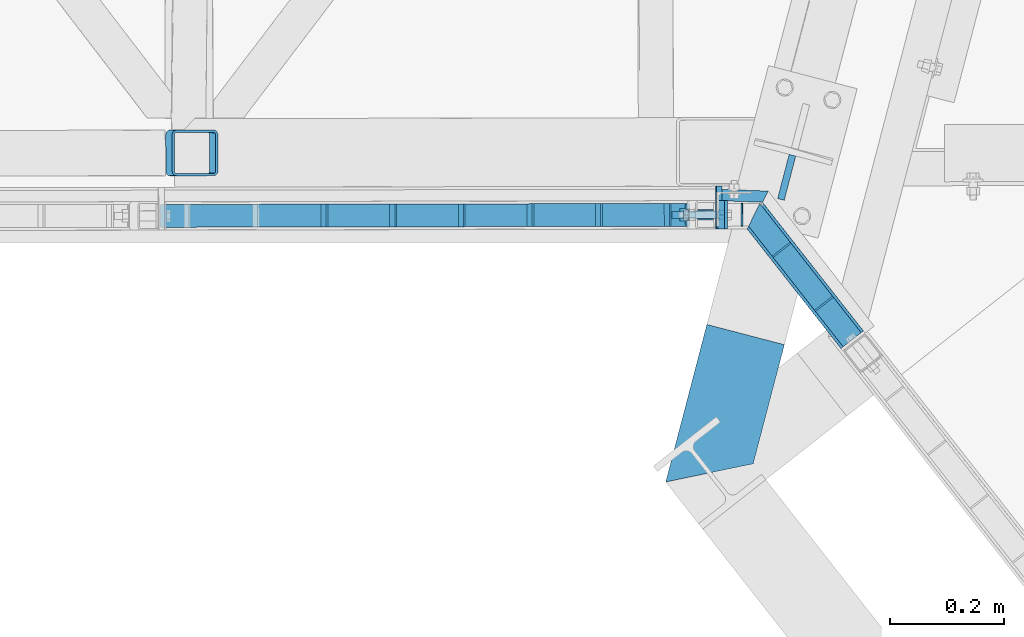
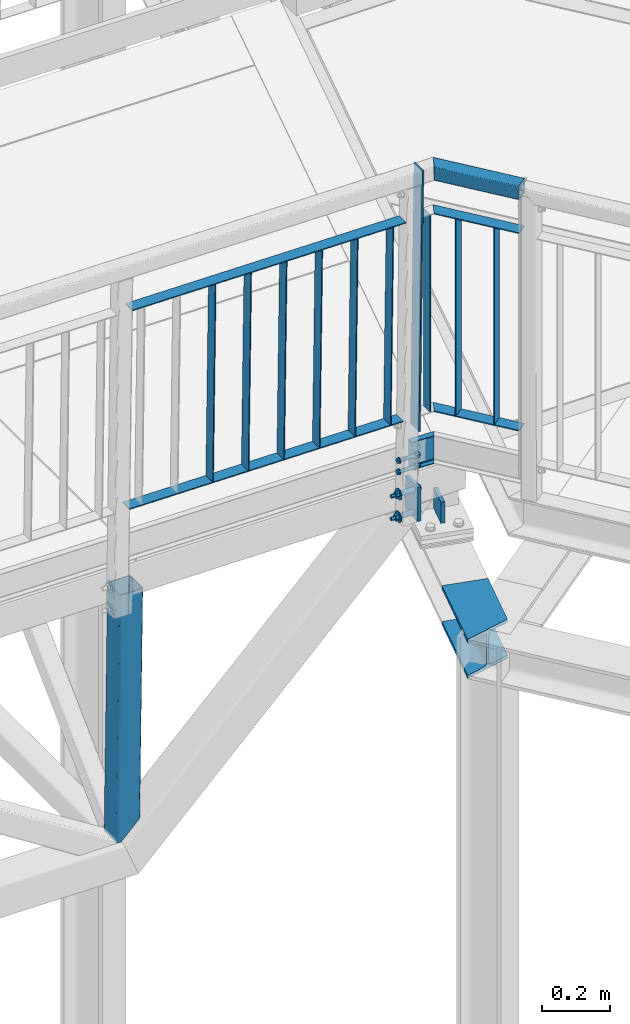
# One storey, part 119 of 169: 20 discrete accessories, 2 mechanical fasteners, 5 elements without a shape of their own.
"""IFC2X3 building model written with IfcOpenShell, lengths in millimetres."""

from ifc_helpers import new_model, si_unit, frame, frame_2d, origin_with_axes, origin_2d_with_axis, place, context, subcontext, project, spatial, polyline, circle_curve, parameter, trimmed, segment, composite_curve, rectangle, hollow_rectangle, circle, i_section, u_section, outline, extrude, boolean, clip, halfspace, source, transform, mapped, material, type_object, element, aggregate, save


model = new_model("IFC2X3")

# Units and contexts
model_context = context("Model", 3, precision=1e-05, world=origin_with_axes())
body_context = subcontext(model_context, "Body", "Model", "MODEL_VIEW")
ifc_project = project(units=[si_unit("LENGTHUNIT", "METRE", prefix="MILLI"), si_unit("AREAUNIT", "SQUARE_METRE"), si_unit("VOLUMEUNIT", "CUBIC_METRE"), si_unit("MASSUNIT", "GRAM", prefix="KILO"), si_unit("TIMEUNIT", "SECOND"), si_unit("PLANEANGLEUNIT", "RADIAN"), si_unit("SOLIDANGLEUNIT", "STERADIAN"), si_unit("THERMODYNAMICTEMPERATUREUNIT", "DEGREE_CELSIUS"), si_unit("LUMINOUSINTENSITYUNIT", "LUMEN")], contexts=[model_context])

# Site, building, storey
site_placement = place(None, origin_with_axes())
site = spatial("IfcSite", under=ifc_project, at=site_placement, Name="Undefined", CompositionType="ELEMENT")
building_placement = place(site_placement, origin_with_axes())
building = spatial("IfcBuilding", under=site, at=building_placement, Name="Undefined", CompositionType="ELEMENT")
storey_placement = place(building_placement, origin_with_axes())
storey = spatial("IfcBuildingStorey", under=building, at=storey_placement, Name="Undefined", CompositionType="ELEMENT", Elevation=0.0)

# Assembly, discrete accessory
assembly_1_placement = place(storey_placement, origin_with_axes())
assembly_1 = element("IfcElementAssembly", 1, at=assembly_1_placement, inside=storey, Name="Steel Assembly", AssemblyPlace="NOTDEFINED", PredefinedType="RIGID_FRAME")
ifc_material_1 = material(Name="STEEL/S235")
discrete_accessory_type_1 = type_object("IfcDiscreteAccessoryType", Name="BLACHA")
discrete_accessory_1_placement = place(assembly_1_placement, frame((18307.4654763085, 54.1547136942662, 13980.5306723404), z_axis=(-0.999917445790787, -0.00186469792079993, 0.0127131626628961), x_axis=(0.00186484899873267, -0.999998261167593, 4.28757666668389e-08)))
discrete_accessory_1 = element("IfcDiscreteAccessory", 2, at=discrete_accessory_1_placement, type_object=discrete_accessory_type_1, material=ifc_material_1, Name="BLACHA", ObjectType="BL5*50", context=body_context, shape_type="SweptSolid", body=[
    extrude(outline(polyline([(0.0, 0.0), (50.0000000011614, 3.27418092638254e-11), (50.0000000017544, 926.000000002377), (3.10365066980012e-08, 926.000000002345), (0.0, 0.0)])), frame((6.80888809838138e-19, -2.87858853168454e-21, -2.49999999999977), z_axis=(0.0, 0.0, 1.0), x_axis=(1.0, 0.0, 0.0)), (0.0, 0.0, 1.0), 5.0),
])

assembly_2_placement = place(storey_placement, origin_with_axes())
assembly_2 = element("IfcElementAssembly", 3, at=assembly_2_placement, inside=storey, Name="Steel Assembly", AssemblyPlace="NOTDEFINED", PredefinedType="RIGID_FRAME")
discrete_accessory_2_placement = place(assembly_2_placement, frame((18306.6259454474, 79.1531882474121, 13721.519819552), z_axis=(-0.999917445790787, -0.00186469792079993, 0.0127131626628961), x_axis=(0.00186484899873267, -0.999998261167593, 4.28757666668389e-08)))
discrete_accessory_2 = element("IfcDiscreteAccessory", 4, at=discrete_accessory_2_placement, type_object=discrete_accessory_type_1, material=ifc_material_1, Name="BLACHA", ObjectType="BL10*120", context=body_context, shape_type="SweptSolid", body=[
    extrude(outline(polyline([(75.0000002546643, -60.0000000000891), (-5.35749222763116e-11, -59.9999999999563), (5.3567816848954e-11, 59.9999999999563), (75.0000002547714, 59.9999999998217), (75.0000002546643, -60.0000000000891)])), frame((-1.81898926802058e-12, -1.18000176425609e-16, -5.00000000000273), z_axis=(0.0, 0.0, 1.0), x_axis=(1.0, 0.0, 0.0)), (0.0, 0.0, 1.0), 10.0),
])

assembly_3_placement = place(storey_placement, origin_with_axes())
assembly_3 = element("IfcElementAssembly", 5, at=assembly_3_placement, inside=storey, Name="Steel Assembly", AssemblyPlace="NOTDEFINED", PredefinedType="RIGID_FRAME")
ifc_material_2 = material(Name="STEEL/S355")
discrete_accessory_type_2 = type_object("IfcDiscreteAccessoryType", Name="BEAM")
discrete_accessory_3_placement = place(assembly_3_placement, frame((18353.7257667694, -180.166900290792, 13470.4171322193), z_axis=(-2.54700353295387e-10, 0.0, -1.0), x_axis=(-0.252628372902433, -0.967563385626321, 0.0)))
discrete_accessory_3 = element("IfcDiscreteAccessory", 6, at=discrete_accessory_3_placement, type_object=discrete_accessory_type_2, material=ifc_material_2, Name="BEAM", ObjectType="HEB140", context=body_context, shape_type="Clipping", body=[
    clip(extrude(i_section(OverallWidth=140.0, OverallDepth=140.0, WebThickness=7.0, FlangeThickness=12.0, FilletRadius=12.0, at=origin_2d_with_axis()), frame((319.618861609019, 3.62910760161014e-12, 0.0), z_axis=(-1.0, -3.46944695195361e-18, -1.38777878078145e-17), x_axis=(1.73472347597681e-18, -1.0, 0.0)), (0.0, 0.0, 1.0), 319.62), halfspace(frame((215.291188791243, -70.000000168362, -1.61171556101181e-07), z_axis=(0.895912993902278, -0.444229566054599, -7.89350043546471e-10), x_axis=(0.0, 0.0, 1.0)), False)),
])
aggregate(assembly_3, [discrete_accessory_3])

# Discrete accessory
discrete_accessory_4_placement = place(assembly_2_placement, frame((18425.4951076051, 94.7088062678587, 13546.2064043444), z_axis=(0.967563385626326, -0.252628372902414, 0.0), x_axis=(0.0, 0.0, 1.0)))
discrete_accessory_4 = element("IfcDiscreteAccessory", 7, at=discrete_accessory_4_placement, type_object=discrete_accessory_type_2, material=ifc_material_1, Name="BEAM", ObjectType="BL12*80", context=body_context, shape_type="Clipping", body=[
    clip(clip(extrude(outline(polyline([(38.9999999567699, 39.9999999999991), (113.926272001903, 39.9999999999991), (113.667476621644, -39.9999999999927), (38.9999999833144, -39.9999999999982), (38.9999999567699, 39.9999999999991)])), frame((-1.81898942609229e-12, -1.81898940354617e-12, -5.99999999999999), z_axis=(0.0, 0.0, 1.0), x_axis=(1.0, 0.0, 0.0)), (0.0, 0.0, 1.0), 12.0), halfspace(frame((38.9999996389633, 1000.00000000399, 4.52928361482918e-09), z_axis=(1.0, 0.0, 0.0), x_axis=(-2.54700353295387e-10, 0.0, -1.0)), True)), halfspace(frame((117.04149814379, 1000.18884846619, -0.737696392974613), z_axis=(-0.9999191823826, 0.00323463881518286, -0.0122949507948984), x_axis=(-0.0122948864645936, 3.9772751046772e-05, 0.999924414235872)), True)),
])

discrete_accessory_5_placement = place(assembly_2_placement, frame((17379.1856832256, 137.423714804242, 12733.2291347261), z_axis=(-0.999917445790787, -0.00186469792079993, 0.0127131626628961), x_axis=(0.012713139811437, 2.3750999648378e-05, 0.999919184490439)))
discrete_accessory_5 = element("IfcDiscreteAccessory", 8, at=discrete_accessory_5_placement, type_object=discrete_accessory_type_2, material=ifc_material_2, Name="BEAM", ObjectType="K80/4", context=body_context, shape_type="CSG", body=[
    boolean("DIFFERENCE", boolean("DIFFERENCE", boolean("DIFFERENCE", boolean("DIFFERENCE", extrude(hollow_rectangle(XDim=80.0, YDim=80.0, WallThickness=4.0, InnerFilletRadius=4.0, OuterFilletRadius=8.0, at=origin_2d_with_axis()), frame((940.000112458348, 4.54747487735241e-13, 0.0), z_axis=(-1.0, -3.46944695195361e-18, -1.38777878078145e-17), x_axis=(1.73472347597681e-18, -1.0, 0.0)), (0.0, 0.0, 1.0), 939.93), extrude(rectangle(XDim=122.0, YDim=122.0, at=origin_2d_with_axis()), frame((82.241183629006, 7.13583112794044e-08, -80.9376947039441), z_axis=(-0.712429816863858, -6.23252919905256e-10, 0.701743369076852), x_axis=(-0.701743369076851, -2.75935332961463e-10, -0.712429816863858)), (0.0, 0.0, 1.0), 230.68)), extrude(rectangle(XDim=122.0, YDim=122.0, at=origin_2d_with_axis()), frame((0.000109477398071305, -4.09399143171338e-06, -139.999999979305), z_axis=(0.0, 0.0, 1.0), x_axis=(-1.0, -3.46944695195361e-18, -1.38777878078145e-17)), (0.0, 0.0, 1.0), 280.0)), halfspace(frame((940.000112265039, -6.72889655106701e-09, 999.999999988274), z_axis=(-1.0, -3.46944695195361e-18, -1.38777878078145e-17), x_axis=(1.73472347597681e-18, -1.0, 0.0)), True)), halfspace(frame((7.55753717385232e-08, -8.42021563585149e-10, 0.0698710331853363), z_axis=(-0.701743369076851, -2.75935332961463e-10, -0.712429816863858), x_axis=(1.73472347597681e-18, -1.0, 0.0)), False)),
])

aggregate(assembly_2, [discrete_accessory_2, discrete_accessory_4, discrete_accessory_5])

discrete_accessory_type_3 = type_object("IfcDiscreteAccessoryType", Name="PORĘCZ")
discrete_accessory_6_placement = place(assembly_1_placement, frame((18347.1831313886, 29.2329910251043, 14986.9308399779), z_axis=(0.999998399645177, 0.00178905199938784, 1.65736745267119e-07), x_axis=(-2.54700353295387e-10, 0.0, -1.0)))
discrete_accessory_6 = element("IfcDiscreteAccessory", 9, at=discrete_accessory_6_placement, type_object=discrete_accessory_type_3, material=ifc_material_1, Name="PORĘCZ", ObjectType="BL40*3", context=body_context, shape_type="Clipping", body=[
    clip(clip(extrude(outline(polyline([(953.5, -20.0000000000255), (251.999988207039, -19.9999999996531), (251.999984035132, 20.0000000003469), (953.5, 20.0000000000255), (953.5, -20.0000000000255)])), frame((1.81898940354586e-12, -1.77635442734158e-15, -1.50000000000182), z_axis=(0.0, 0.0, 1.0), x_axis=(1.0, 0.0, 0.0)), (0.0, 0.0, 1.0), 3.0), halfspace(frame((251.999881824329, 1000.00000015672, -2.78305378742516e-09), z_axis=(1.0, 0.0, 0.0), x_axis=(-2.54700353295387e-10, 0.0, -1.0)), True)), halfspace(frame((953.499887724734, 999.999999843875, -4.07817424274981e-09), z_axis=(-1.0, -3.46944695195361e-18, -1.38777878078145e-17), x_axis=(0.0, 0.0, 1.0)), True)),
])

discrete_accessory_7_placement = place(assembly_1_placement, frame((18490.7153678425, -126.340848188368, 14986.9308724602), z_axis=(0.617242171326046, -0.786773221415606, 1.36000016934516e-07), x_axis=(-2.54700353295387e-10, 0.0, -1.0)))
discrete_accessory_7 = element("IfcDiscreteAccessory", 10, at=discrete_accessory_7_placement, type_object=discrete_accessory_type_3, material=ifc_material_1, Name="PORĘCZ", ObjectType="BL40*3", context=body_context, shape_type="Clipping", body=[
    clip(clip(extrude(outline(polyline([(953.5, -20.0000000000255), (251.999988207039, -19.9999999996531), (251.999984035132, 20.0000000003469), (953.5, 20.0000000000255), (953.5, -20.0000000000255)])), frame((1.81898940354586e-12, -1.77635442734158e-15, -1.50000000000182), z_axis=(0.0, 0.0, 1.0), x_axis=(1.0, 0.0, 0.0)), (0.0, 0.0, 1.0), 3.0), halfspace(frame((251.999881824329, 1000.00000015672, -2.78305378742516e-09), z_axis=(1.0, 0.0, 0.0), x_axis=(-2.54700353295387e-10, 0.0, -1.0)), True)), halfspace(frame((953.499887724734, 999.999999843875, -4.07817424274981e-09), z_axis=(-1.0, -3.46944695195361e-18, -1.38777878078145e-17), x_axis=(0.0, 0.0, 1.0)), True)),
])

discrete_accessory_8_placement = place(assembly_1_placement, frame((18416.6463072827, -31.9280616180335, 14986.9308561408), z_axis=(0.617242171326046, -0.786773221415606, 1.36000016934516e-07), x_axis=(-2.54700353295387e-10, 0.0, -1.0)))
discrete_accessory_8 = element("IfcDiscreteAccessory", 11, at=discrete_accessory_8_placement, type_object=discrete_accessory_type_3, material=ifc_material_1, Name="PORĘCZ", ObjectType="BL40*3", context=body_context, shape_type="Clipping", body=[
    clip(clip(extrude(outline(polyline([(953.5, -20.0000000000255), (251.999988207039, -19.9999999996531), (251.999984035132, 20.0000000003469), (953.5, 20.0000000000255), (953.5, -20.0000000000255)])), frame((1.81898940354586e-12, -1.77635442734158e-15, -1.50000000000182), z_axis=(0.0, 0.0, 1.0), x_axis=(1.0, 0.0, 0.0)), (0.0, 0.0, 1.0), 3.0), halfspace(frame((251.999881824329, 1000.00000015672, -2.78305378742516e-09), z_axis=(1.0, 0.0, 0.0), x_axis=(-2.54700353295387e-10, 0.0, -1.0)), True)), halfspace(frame((953.499887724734, 999.999999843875, -4.07817424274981e-09), z_axis=(-1.0, -3.46944695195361e-18, -1.38777878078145e-17), x_axis=(0.0, 0.0, 1.0)), True)),
])

discrete_accessory_9_placement = place(assembly_1_placement, frame((18223.7301095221, 28.9985625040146, 14882.6687160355), z_axis=(-0.0018648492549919, 0.999998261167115, -4.2996762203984e-08), x_axis=(-0.012713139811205, -2.37511238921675e-05, -0.999919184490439)))
discrete_accessory_9 = element("IfcDiscreteAccessory", 12, at=discrete_accessory_9_placement, type_object=discrete_accessory_type_3, material=ifc_material_1, Name="PORĘCZ", ObjectType="BL40*3", context=body_context, shape_type="Clipping", body=[
    clip(clip(extrude(rectangle(XDim=3.0, YDim=40.0, at=origin_2d_with_axis()), frame((848.500000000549, 1.47191286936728e-15, -8.89750592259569e-16), z_axis=(-1.0, -3.46944695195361e-18, -1.38777878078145e-17), x_axis=(1.73472347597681e-18, -1.0, 0.0)), (0.0, 0.0, 1.0), 702.0), halfspace(frame((848.499999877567, 4.522007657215e-09, 1000.00000000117), z_axis=(-1.0, -3.46944695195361e-18, -1.38777878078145e-17), x_axis=(1.73472347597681e-18, -1.0, 0.0)), True)), halfspace(frame((146.499999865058, 4.97311702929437e-09, 1000.00000000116), z_axis=(1.0, 0.0, 0.0), x_axis=(0.0, 1.0, 0.0)), True)),
])

discrete_accessory_10_placement = place(assembly_1_placement, frame((18103.7400160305, 28.7747987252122, 14884.1942954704), z_axis=(-0.0018648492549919, 0.999998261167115, -4.2996762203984e-08), x_axis=(-0.012713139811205, -2.37511238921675e-05, -0.999919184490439)))
discrete_accessory_10 = element("IfcDiscreteAccessory", 13, at=discrete_accessory_10_placement, type_object=discrete_accessory_type_3, material=ifc_material_1, Name="PORĘCZ", ObjectType="BL40*3", context=body_context, shape_type="Clipping", body=[
    clip(clip(extrude(rectangle(XDim=3.0, YDim=40.0, at=origin_2d_with_axis()), frame((848.500000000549, 1.47191286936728e-15, -8.89750592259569e-16), z_axis=(-1.0, -3.46944695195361e-18, -1.38777878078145e-17), x_axis=(1.73472347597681e-18, -1.0, 0.0)), (0.0, 0.0, 1.0), 702.0), halfspace(frame((848.499999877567, 4.522007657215e-09, 1000.00000000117), z_axis=(-1.0, -3.46944695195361e-18, -1.38777878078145e-17), x_axis=(1.73472347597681e-18, -1.0, 0.0)), True)), halfspace(frame((146.499999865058, 4.97311702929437e-09, 1000.00000000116), z_axis=(1.0, 0.0, 0.0), x_axis=(0.0, 1.0, 0.0)), True)),
])

discrete_accessory_11_placement = place(assembly_1_placement, frame((18312.428855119, 29.1639662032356, 14736.5292622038), z_axis=(-0.012713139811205, -2.37511238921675e-05, -0.999919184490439), x_axis=(-0.999917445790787, -0.00186469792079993, 0.0127131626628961)))
discrete_accessory_11 = element("IfcDiscreteAccessory", 14, at=discrete_accessory_11_placement, type_object=discrete_accessory_type_3, material=ifc_material_1, Name="PORĘCZ", ObjectType="BL40*3", context=body_context, shape_type="CSG", body=[
    boolean("DIFFERENCE", boolean("DIFFERENCE", boolean("DIFFERENCE", extrude(outline(polyline([(972.599252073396, -19.9999999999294), (47.8052361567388, -19.9999999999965), (47.8052361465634, 20.0000000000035), (972.599252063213, 20.0000000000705), (972.599252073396, -19.9999999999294)])), frame((1.81898940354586e-12, -1.77635442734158e-15, -1.50000000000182), z_axis=(0.0, 0.0, 1.0), x_axis=(1.0, 0.0, 0.0)), (0.0, 0.0, 1.0), 3.0), extrude(rectangle(XDim=51.0, YDim=51.0, at=origin_2d_with_axis()), frame((-5.94487782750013e-08, -4.65977194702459e-09, -139.999999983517), z_axis=(0.0, 0.0, 1.0), x_axis=(1.0, 0.0, 0.0)), (0.0, 0.0, 1.0), 280.0)), extrude(rectangle(XDim=51.0, YDim=51.0, at=origin_2d_with_axis()), frame((998.099252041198, 3.51939400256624e-08, -140.00000001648), z_axis=(0.0, 0.0, 1.0), x_axis=(1.0, 0.0, 0.0)), (0.0, 0.0, 1.0), 280.0)), halfspace(frame((47.8052358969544, 1000.00000001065, -5.17502485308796e-09), z_axis=(1.0, 0.0, 0.0), x_axis=(-2.54700353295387e-10, 0.0, -1.0)), True)),
])

discrete_accessory_12_placement = place(assembly_1_placement, frame((17983.7499225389, 28.5510349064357, 14885.7198748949), z_axis=(-0.0018648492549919, 0.999998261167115, -4.2996762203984e-08), x_axis=(-0.012713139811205, -2.37511238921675e-05, -0.999919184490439)))
discrete_accessory_12 = element("IfcDiscreteAccessory", 15, at=discrete_accessory_12_placement, type_object=discrete_accessory_type_3, material=ifc_material_1, Name="PORĘCZ", ObjectType="BL40*3", context=body_context, shape_type="Clipping", body=[
    clip(clip(extrude(rectangle(XDim=3.0, YDim=40.0, at=origin_2d_with_axis()), frame((848.500000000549, 1.47191286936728e-15, -8.89750592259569e-16), z_axis=(-1.0, -3.46944695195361e-18, -1.38777878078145e-17), x_axis=(1.73472347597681e-18, -1.0, 0.0)), (0.0, 0.0, 1.0), 702.0), halfspace(frame((848.499999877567, 4.522007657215e-09, 1000.00000000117), z_axis=(-1.0, -3.46944695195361e-18, -1.38777878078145e-17), x_axis=(1.73472347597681e-18, -1.0, 0.0)), True)), halfspace(frame((146.499999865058, 4.97311702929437e-09, 1000.00000000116), z_axis=(1.0, 0.0, 0.0), x_axis=(0.0, 1.0, 0.0)), True)),
])

discrete_accessory_13_placement = place(assembly_1_placement, frame((17863.7598290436, 28.3272711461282, 14887.2454543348), z_axis=(-0.0018648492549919, 0.999998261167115, -4.2996762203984e-08), x_axis=(-0.012713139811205, -2.37511238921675e-05, -0.999919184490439)))
discrete_accessory_13 = element("IfcDiscreteAccessory", 16, at=discrete_accessory_13_placement, type_object=discrete_accessory_type_3, material=ifc_material_1, Name="PORĘCZ", ObjectType="BL40*3", context=body_context, shape_type="Clipping", body=[
    clip(clip(extrude(rectangle(XDim=3.0, YDim=40.0, at=origin_2d_with_axis()), frame((848.500000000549, 1.47191286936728e-15, -8.89750592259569e-16), z_axis=(-1.0, -3.46944695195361e-18, -1.38777878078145e-17), x_axis=(1.73472347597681e-18, -1.0, 0.0)), (0.0, 0.0, 1.0), 702.0), halfspace(frame((848.499999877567, 4.522007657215e-09, 1000.00000000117), z_axis=(-1.0, -3.46944695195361e-18, -1.38777878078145e-17), x_axis=(1.73472347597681e-18, -1.0, 0.0)), True)), halfspace(frame((146.499999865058, 4.97311702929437e-09, 1000.00000000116), z_axis=(1.0, 0.0, 0.0), x_axis=(0.0, 1.0, 0.0)), True)),
])

discrete_accessory_14_placement = place(assembly_1_placement, frame((17743.7697355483, 28.1035073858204, 14888.7710337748), z_axis=(-0.0018648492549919, 0.999998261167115, -4.2996762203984e-08), x_axis=(-0.012713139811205, -2.37511238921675e-05, -0.999919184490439)))
discrete_accessory_14 = element("IfcDiscreteAccessory", 17, at=discrete_accessory_14_placement, type_object=discrete_accessory_type_3, material=ifc_material_1, Name="PORĘCZ", ObjectType="BL40*3", context=body_context, shape_type="Clipping", body=[
    clip(clip(extrude(rectangle(XDim=3.0, YDim=40.0, at=origin_2d_with_axis()), frame((848.500000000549, 1.47191286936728e-15, -8.89750592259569e-16), z_axis=(-1.0, -3.46944695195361e-18, -1.38777878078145e-17), x_axis=(1.73472347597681e-18, -1.0, 0.0)), (0.0, 0.0, 1.0), 702.0), halfspace(frame((848.499999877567, 4.522007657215e-09, 1000.00000000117), z_axis=(-1.0, -3.46944695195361e-18, -1.38777878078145e-17), x_axis=(1.73472347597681e-18, -1.0, 0.0)), True)), halfspace(frame((146.499999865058, 4.97311702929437e-09, 1000.00000000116), z_axis=(1.0, 0.0, 0.0), x_axis=(0.0, 1.0, 0.0)), True)),
])

discrete_accessory_15_placement = place(assembly_1_placement, frame((17623.779642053, 27.8797436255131, 14890.2966132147), z_axis=(-0.0018648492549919, 0.999998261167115, -4.2996762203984e-08), x_axis=(-0.012713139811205, -2.37511238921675e-05, -0.999919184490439)))
discrete_accessory_15 = element("IfcDiscreteAccessory", 18, at=discrete_accessory_15_placement, type_object=discrete_accessory_type_3, material=ifc_material_1, Name="PORĘCZ", ObjectType="BL40*3", context=body_context, shape_type="Clipping", body=[
    clip(clip(extrude(rectangle(XDim=3.0, YDim=40.0, at=origin_2d_with_axis()), frame((848.500000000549, 1.47191286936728e-15, -8.89750592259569e-16), z_axis=(-1.0, -3.46944695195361e-18, -1.38777878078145e-17), x_axis=(1.73472347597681e-18, -1.0, 0.0)), (0.0, 0.0, 1.0), 702.0), halfspace(frame((848.499999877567, 4.522007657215e-09, 1000.00000000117), z_axis=(-1.0, -3.46944695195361e-18, -1.38777878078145e-17), x_axis=(1.73472347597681e-18, -1.0, 0.0)), True)), halfspace(frame((146.499999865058, 4.97311702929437e-09, 1000.00000000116), z_axis=(1.0, 0.0, 0.0), x_axis=(0.0, 1.0, 0.0)), True)),
])

discrete_accessory_16_placement = place(assembly_1_placement, frame((18303.4660915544, 29.1472216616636, 14031.5862371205), z_axis=(-0.012713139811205, -2.37511238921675e-05, -0.999919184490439), x_axis=(-0.999917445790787, -0.00186469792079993, 0.0127131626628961)))
discrete_accessory_16 = element("IfcDiscreteAccessory", 19, at=discrete_accessory_16_placement, type_object=discrete_accessory_type_3, material=ifc_material_1, Name="PORĘCZ", ObjectType="BL40*3", context=body_context, shape_type="CSG", body=[
    boolean("DIFFERENCE", boolean("DIFFERENCE", boolean("DIFFERENCE", extrude(outline(polyline([(972.599252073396, -19.9999999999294), (47.8052361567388, -19.9999999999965), (47.8052361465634, 20.0000000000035), (972.599252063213, 20.0000000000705), (972.599252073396, -19.9999999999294)])), frame((1.81898940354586e-12, -1.77635442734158e-15, -1.50000000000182), z_axis=(0.0, 0.0, 1.0), x_axis=(1.0, 0.0, 0.0)), (0.0, 0.0, 1.0), 3.0), extrude(rectangle(XDim=51.0, YDim=51.0, at=origin_2d_with_axis()), frame((-5.94487782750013e-08, -4.65977194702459e-09, -139.999999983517), z_axis=(0.0, 0.0, 1.0), x_axis=(1.0, 0.0, 0.0)), (0.0, 0.0, 1.0), 280.0)), extrude(rectangle(XDim=51.0, YDim=51.0, at=origin_2d_with_axis()), frame((998.099252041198, 3.51939400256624e-08, -140.00000001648), z_axis=(0.0, 0.0, 1.0), x_axis=(1.0, 0.0, 0.0)), (0.0, 0.0, 1.0), 280.0)), halfspace(frame((47.8052358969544, 1000.00000001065, -5.17502485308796e-09), z_axis=(1.0, 0.0, 0.0), x_axis=(-2.54700353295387e-10, 0.0, -1.0)), True)),
])

discrete_accessory_17_placement = place(assembly_1_placement, frame((18539.9862736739, -189.144602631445, 14031.9308833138), z_axis=(-2.54700353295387e-10, 0.0, -1.0), x_axis=(-0.617242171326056, 0.786773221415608, 5.09999997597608e-08)))
discrete_accessory_17 = element("IfcDiscreteAccessory", 20, at=discrete_accessory_17_placement, type_object=discrete_accessory_type_3, material=ifc_material_1, Name="PORĘCZ", ObjectType="BL40*3", context=body_context, shape_type="Clipping", body=[
    clip(clip(extrude(outline(polyline([(267.857691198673, -19.9999999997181), (-3.27418092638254e-11, -20.0000000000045), (3.27418092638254e-11, 20.0000000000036), (287.361586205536, 20.0000000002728), (267.857691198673, -19.9999999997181)])), frame((1.81898940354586e-12, -1.77635442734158e-15, -1.50000000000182), z_axis=(0.0, 0.0, 1.0), x_axis=(1.0, 0.0, 0.0)), (0.0, 0.0, 1.0), 3.0), halfspace(frame((267.85769112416, -20.0000001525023, -3.93147274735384e-06), z_axis=(-0.898841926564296, 0.438272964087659, -4.45569222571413e-08), x_axis=(-2.54700353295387e-10, 0.0, -1.0)), True)), halfspace(frame((-8.25479219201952e-07, 1000.00000001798, 2.65572452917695e-09), z_axis=(1.0, 0.0, 0.0), x_axis=(-2.54700353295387e-10, 0.0, -1.0)), True)),
])

discrete_accessory_18_placement = place(assembly_1_placement, frame((18539.9862145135, -189.14452726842, 14736.4308892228), z_axis=(-2.54700353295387e-10, 0.0, -1.0), x_axis=(-0.617242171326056, 0.786773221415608, 5.09999997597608e-08)))
discrete_accessory_18 = element("IfcDiscreteAccessory", 21, at=discrete_accessory_18_placement, type_object=discrete_accessory_type_3, material=ifc_material_1, Name="PORĘCZ", ObjectType="BL40*3", context=body_context, shape_type="Clipping", body=[
    clip(extrude(outline(polyline([(267.857691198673, -19.9999999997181), (-3.27418092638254e-11, -20.0000000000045), (3.27418092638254e-11, 20.0000000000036), (287.361586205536, 20.0000000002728), (267.857691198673, -19.9999999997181)])), frame((1.81898940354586e-12, -1.77635442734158e-15, -1.50000000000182), z_axis=(0.0, 0.0, 1.0), x_axis=(1.0, 0.0, 0.0)), (0.0, 0.0, 1.0), 3.0), halfspace(frame((267.85769112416, -20.0000001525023, -3.93147274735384e-06), z_axis=(-0.898841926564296, 0.438272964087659, -4.45569222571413e-08), x_axis=(-2.54700353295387e-10, 0.0, -1.0)), True)),
])

discrete_accessory_19_placement = place(assembly_1_placement, frame((18539.9862023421, -189.144511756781, 14881.4308892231), z_axis=(0.786773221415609, 0.617242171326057, 0.0), x_axis=(-0.617242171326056, 0.786773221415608, 5.09999997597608e-08)))
discrete_accessory_19 = element("IfcDiscreteAccessory", 22, at=discrete_accessory_19_placement, type_object=discrete_accessory_type_3, material=ifc_material_1, Name="PORĘCZ", ObjectType="SHS50*3", context=body_context, shape_type="Clipping", body=[
    clip(extrude(hollow_rectangle(XDim=50.0, YDim=50.0, WallThickness=3.0, InnerFilletRadius=3.0, OuterFilletRadius=6.0, at=origin_2d_with_axis()), frame((329.588758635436, 0.0, 1.8125881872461e-12), z_axis=(-1.0, -3.46944695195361e-18, -1.38777878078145e-17), x_axis=(1.73472347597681e-18, -1.0, 0.0)), (0.0, 0.0, 1.0), 329.59), halfspace(frame((289.799573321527, 2.5347344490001e-06, 25.0000025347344), z_axis=(0.898841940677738, -4.45569184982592e-08, -0.43827293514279), x_axis=(0.0, 1.0, 0.0)), False)),
])

# Mechanical fastener
ifc_material_3 = material(Name="Undefined")
discrete_accessory_type_4 = type_object("IfcDiscreteAccessoryType", Name="Bolt assembly")
shared_shape_1 = source(origin_with_axes(), body_context, "Body", "SweptSolid", [
    extrude(circle(Radius=9.0, at=origin_2d_with_axis()), frame((0.0, -4.90000000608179, 0.0), z_axis=(0.0, 1.0, 0.0), x_axis=(1.0, 0.0, 0.0)), (0.0, 0.0, 1.0), 10.0),
    extrude(circle(Radius=9.0, at=origin_2d_with_axis()), frame((0.0, 4.89999999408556, 0.0), z_axis=(0.0, 1.0, 0.0), x_axis=(1.0, 0.0, 0.0)), (0.0, 0.0, 1.0), 50.1),
    extrude(outline(polyline([(10.39230484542, 0.0), (5.19615242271, 9.00000000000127), (-5.19615242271, 9.00000000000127), (-10.39230484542, 0.0), (-5.19615242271, -9.00000000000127), (5.19615242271, -9.00000000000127), (10.39230484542, 0.0)])), frame((0.0, -15.5000000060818, 0.0), z_axis=(0.0, 1.0, 0.0), x_axis=(1.0, 0.0, 0.0)), (0.0, 0.0, 1.0), 7.5),
    extrude(circle(Radius=6.0, at=origin_2d_with_axis()), frame((0.0, -8.00000000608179, 0.0), z_axis=(0.0, 1.0, 0.0), x_axis=(1.0, 0.0, 0.0)), (0.0, 0.0, 1.0), 90.0),
    extrude(circle(Radius=18.5, at=origin_2d_with_axis()), frame((0.0, -8.00000000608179, 0.0), z_axis=(0.0, 1.0, 0.0), x_axis=(1.0, 0.0, 0.0)), (0.0, 0.0, 1.0), 3.0),
    extrude(circle(Radius=18.5, at=origin_2d_with_axis()), frame((0.0, 54.9999999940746, 0.0), z_axis=(0.0, 1.0, 0.0), x_axis=(1.0, 0.0, 0.0)), (0.0, 0.0, 1.0), 3.0),
    extrude(outline(polyline([(10.96965511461, 0.0), (5.484827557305, 9.50000000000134), (-5.484827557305, 9.50000000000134), (-10.96965511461, 0.0), (-5.484827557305, -9.50000000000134), (5.484827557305, -9.50000000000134), (10.96965511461, 0.0)])), frame((0.0, 57.9999999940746, 0.0), z_axis=(0.0, 1.0, 0.0), x_axis=(1.0, 0.0, 0.0)), (0.0, 0.0, 1.0), 10.0),
])
mechanical_fastener_1_placement = place(assembly_1_placement, frame((18306.7255444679, 29.1532868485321, 13722.019781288), z_axis=(0.0127140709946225, -0.00047624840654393, 0.999919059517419), x_axis=(-0.00185849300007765, 0.999998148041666, 0.000499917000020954)))
mechanical_fastener_1 = element("IfcMechanicalFastener", 23, at=mechanical_fastener_1_placement, type_object=discrete_accessory_type_4, material=ifc_material_3, Name="Bolt assembly", NominalDiameter=12.0, NominalLength=90.0, context=body_context, shape_type="MappedRepresentation", body=[
    mapped(shared_shape_1, transform((-1.15463194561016e-14, 5.45696821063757e-11, -39.9999999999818))),
    mapped(shared_shape_1, transform((8.88178419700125e-15, -5.54791768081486e-11, 39.99999999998))),
])

aggregate(assembly_1, [discrete_accessory_6, discrete_accessory_7, discrete_accessory_8, discrete_accessory_9, discrete_accessory_10, discrete_accessory_11, discrete_accessory_12, discrete_accessory_13, discrete_accessory_14, discrete_accessory_15, discrete_accessory_16, discrete_accessory_17, discrete_accessory_18, discrete_accessory_19, discrete_accessory_1, mechanical_fastener_1])

# Assembly, mechanical fastener
assembly_4_placement = place(storey_placement, origin_with_axes())
assembly_4 = element("IfcElementAssembly", 24, at=assembly_4_placement, inside=storey, Name="Steel Assembly", AssemblyPlace="NOTDEFINED", PredefinedType="RIGID_FRAME")
shared_shape_2 = source(origin_with_axes(), body_context, "Body", "SweptSolid", [
    extrude(circle(Radius=6.5, at=origin_2d_with_axis()), frame((0.0, -52.899999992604, 0.0), z_axis=(0.0, 1.0, 0.0), x_axis=(1.0, 0.0, 0.0)), (0.0, 0.0, 1.0), 50.0),
    extrude(outline(composite_curve([segment(polyline([(-5.0, 6.5), (5.0, 6.5)]), True, "CONTINUOUS"), segment(trimmed(circle_curve(frame_2d((5.0, 0.0), x_axis=(0.0, 1.0)), 6.5), [parameter(0.0)], [parameter(3.14159265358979)], False, "PARAMETER"), True, "CONTINUOUS"), segment(polyline([(5.0, -6.5), (-5.0, -6.5)]), True, "CONTINUOUS"), segment(trimmed(circle_curve(frame_2d((-5.0, 0.0), x_axis=(0.0, -1.0)), 6.5), [parameter(0.0)], [parameter(3.14159265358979)], False, "PARAMETER"), True, "DISCONTINUOUS")], self_intersect=False)), frame((0.0, -3.09999995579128, 0.0), z_axis=(0.0, 1.0, 0.0), x_axis=(1.0, 0.0, 0.0)), (0.0, 0.0, 1.0), 3.1),
    extrude(outline(polyline([(8.66025403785, 0.0), (4.330127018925, 7.50000000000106), (-4.330127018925, 7.50000000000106), (-8.66025403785, 0.0), (-4.330127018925, -7.50000000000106), (4.330127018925, -7.50000000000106), (8.66025403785, 0.0)])), frame((0.0, -61.4000000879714, 0.0), z_axis=(0.0, 1.0, 0.0), x_axis=(1.0, 0.0, 0.0)), (0.0, 0.0, 1.0), 6.4),
    extrude(circle(Radius=5.0, at=origin_2d_with_axis()), frame((0.0, -54.999999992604, 0.0), z_axis=(0.0, 1.0, 0.0), x_axis=(1.0, 0.0, 0.0)), (0.0, 0.0, 1.0), 70.0),
    extrude(circle(Radius=10.0, at=origin_2d_with_axis()), frame((0.0, -54.999999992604, 0.0), z_axis=(0.0, 1.0, 0.0), x_axis=(1.0, 0.0, 0.0)), (0.0, 0.0, 1.0), 2.0),
    extrude(circle(Radius=10.0, at=origin_2d_with_axis()), frame((0.0, 0.0, 0.0), z_axis=(0.0, 1.0, 0.0), x_axis=(1.0, 0.0, 0.0)), (0.0, 0.0, 1.0), 2.0),
    extrude(outline(polyline([(9.81495457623, 0.0), (4.907477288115, 8.5000000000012), (-4.907477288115, 8.5000000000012), (-9.81495457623, 0.0), (-4.907477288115, -8.5000000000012), (4.907477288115, -8.5000000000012), (9.81495457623, 0.0)])), frame((0.0, 1.99999997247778, 0.0), z_axis=(0.0, 1.0, 0.0), x_axis=(1.0, 0.0, 0.0)), (0.0, 0.0, 1.0), 8.0),
])
mechanical_fastener_2_placement = place(assembly_4_placement, frame((18306.2449298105, 29.1523957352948, 13841.5355509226), z_axis=(-0.0018648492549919, 0.999998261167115, -4.2996762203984e-08), x_axis=(0.012713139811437, 2.3750999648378e-05, 0.999919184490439)))
mechanical_fastener_2 = element("IfcMechanicalFastener", 25, at=mechanical_fastener_2_placement, type_object=discrete_accessory_type_4, material=ifc_material_3, Name="Bolt assembly", NominalDiameter=10.0, NominalLength=70.0, context=body_context, shape_type="MappedRepresentation", body=[
    mapped(shared_shape_2, transform((0.0, 0.0, 0.0))),
    mapped(shared_shape_2, transform((39.9999999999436, -6.54836185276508e-11, 2.74846811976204e-11))),
])
aggregate(assembly_4, [mechanical_fastener_2])

# Assembly, discrete accessory
assembly_5_placement = place(storey_placement, origin_with_axes())
assembly_5 = element("IfcElementAssembly", 26, at=assembly_5_placement, inside=storey, Name="Steel Assembly", AssemblyPlace="NOTDEFINED", PredefinedType="RIGID_FRAME")
ifc_material_4 = material(Name="STEEL/S235JR")
discrete_accessory_type_5 = type_object("IfcDiscreteAccessoryType", Name="KICK_PLATE")
discrete_accessory_20_placement = place(assembly_5_placement, frame((18392.924164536, 60.7361146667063, 13861.4954882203), z_axis=(-2.54700353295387e-10, 0.0, -1.0), x_axis=(-0.999324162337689, 0.0367589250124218, -9.00000010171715e-08)))
discrete_accessory_20 = element("IfcDiscreteAccessory", 27, at=discrete_accessory_20_placement, type_object=discrete_accessory_type_5, material=ifc_material_4, Name="KICK_PLATE", ObjectType="C100*20*2", context=body_context, shape_type="Clipping", body=[
    clip(extrude(u_section(Depth=100.0, FlangeWidth=20.0, WebThickness=2.0, FlangeThickness=2.0, FilletRadius=3.0, at=origin_2d_with_axis()), frame((84.0000000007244, 5.33743542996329e-16, -1.81898940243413e-12), z_axis=(-1.0, -3.46944695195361e-18, -1.38777878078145e-17), x_axis=(1.73472347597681e-18, -1.0, 0.0)), (0.0, 0.0, 1.0), 85.52), halfspace(frame((9.2791032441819, -10.0000031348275, -1.2464115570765e-06), z_axis=(-0.907123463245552, -0.42086461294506, -2.59423788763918e-08), x_axis=(-2.54700353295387e-10, 0.0, -1.0)), False)),
])
aggregate(assembly_5, [discrete_accessory_20])

save(model, "model.ifc")
